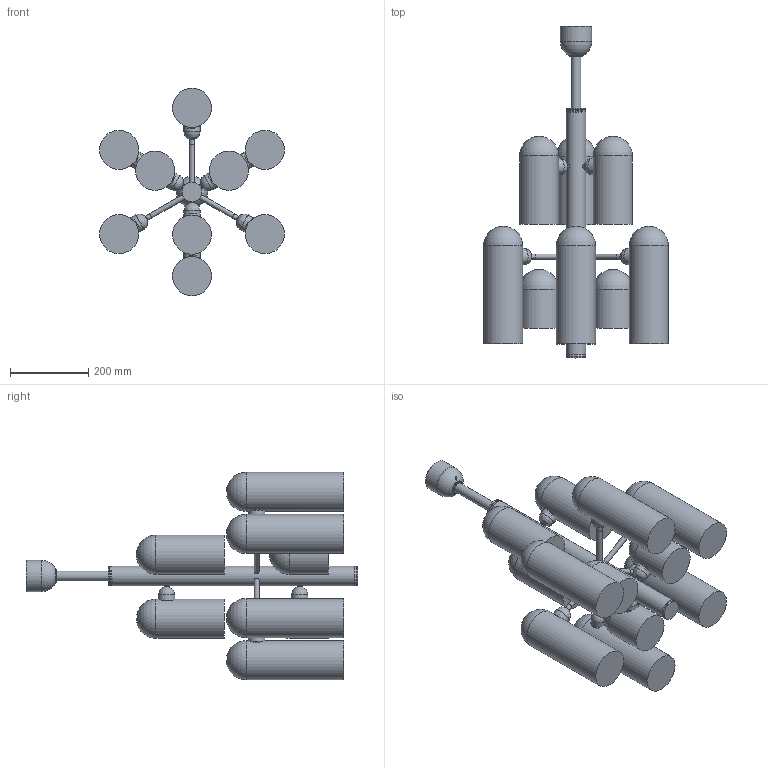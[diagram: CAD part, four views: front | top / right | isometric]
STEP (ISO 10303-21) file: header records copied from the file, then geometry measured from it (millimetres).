
FILE_DESCRIPTION(/* description */ (''),/* implementation_level */ '2;1');
FILE_NAME(/* name */ '',/* time_stamp */ '2024-02-29T09:49:25+01:00',/* author */ ('Lukasz'),/* organization */ (''),/* preprocessor_version */ 'ST-DEVELOPER v20',/* originating_system */ 'Autodesk Inventor 2024',/* authorisation */ '');
FILE_SCHEMA (('AUTOMOTIVE_DESIGN { 1 0 10303 214 3 1 1 }'));
Length unit declared in the file: millimetre
Products named in the file (1): Część4
Bounding box: 472.21 x 848 x 529.79 mm (x, y, z)
Volume: 23460671.1 mm3; surface area: 1334143.1 mm2
Topology: 70 solids, 70 shells, 318 faces, 545 edges, 399 vertices
Faces by surface type: plane 159, cylinder 97, bspline 38, sphere 16, cone 6, torus 2
Full cylindrical faces by diameter (mm): 4 x2, 6 x1, 10 x11, 13 x12, 25 x1, 28 x2, 30 x1, 31.5 x1, 32 x1, 37 x12, 42 x12, 44 x12, 46 x2, 48 x2, 50 x3, 76 x1, 80 x1, 100 x12
Entity records: 24593 total; most frequent: CARTESIAN_POINT 18051, DIRECTION 1355, ORIENTED_EDGE 1052, AXIS2_PLACEMENT_3D 584, EDGE_CURVE 526, STYLED_ITEM 388, EDGE_LOOP 353, VERTEX_POINT 353
